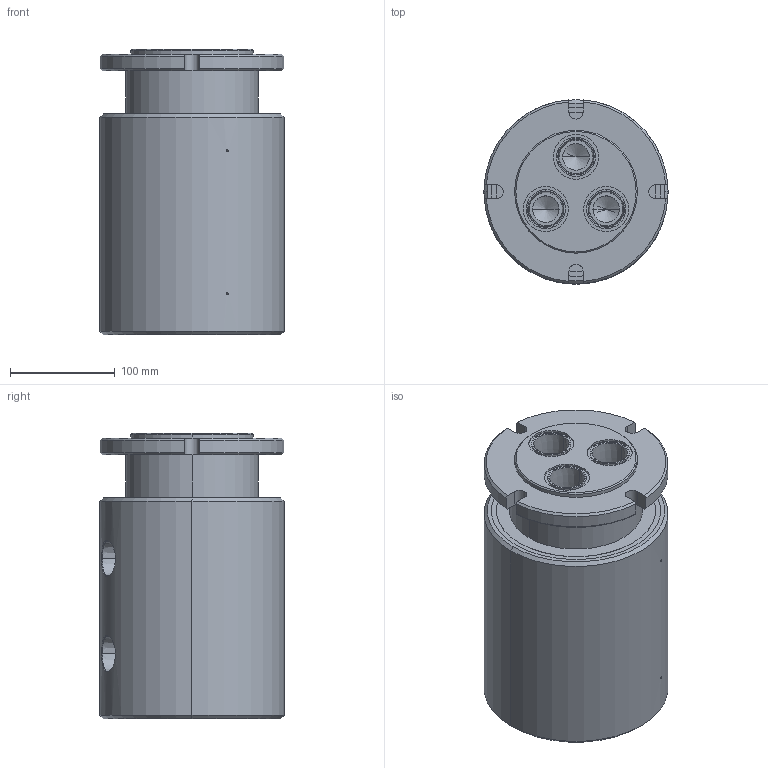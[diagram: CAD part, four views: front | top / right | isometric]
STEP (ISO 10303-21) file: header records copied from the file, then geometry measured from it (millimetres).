
FILE_DESCRIPTION (( 'STEP AP214' ), '1' );
FILE_NAME ('GP(M)-630.STEP', '2013-02-06T13:50:19', ( '' ), ( '' ), 'SwSTEP 2.0', 'SolidWorks 2011', '' );
FILE_SCHEMA (( 'AUTOMOTIVE_DESIGN' ));
Length unit declared in the file: inch
Products named in the file (1): GP(M)-630
Bounding box: 176.2 x 176.2 x 273.1 mm (x, y, z)
Volume: 5804451.4 mm3; surface area: 249670.8 mm2
Topology: 1 solids, 1 shells, 177 faces, 418 edges, 254 vertices
Faces by surface type: cylinder 75, cone 56, plane 38, bspline 6, torus 2
Entity records: 6380 total; most frequent: CARTESIAN_POINT 1997, DIRECTION 884, ORIENTED_EDGE 788, EDGE_CURVE 394, AXIS2_PLACEMENT_3D 362, VERTEX_POINT 254, EDGE_LOOP 212, CIRCLE 190
